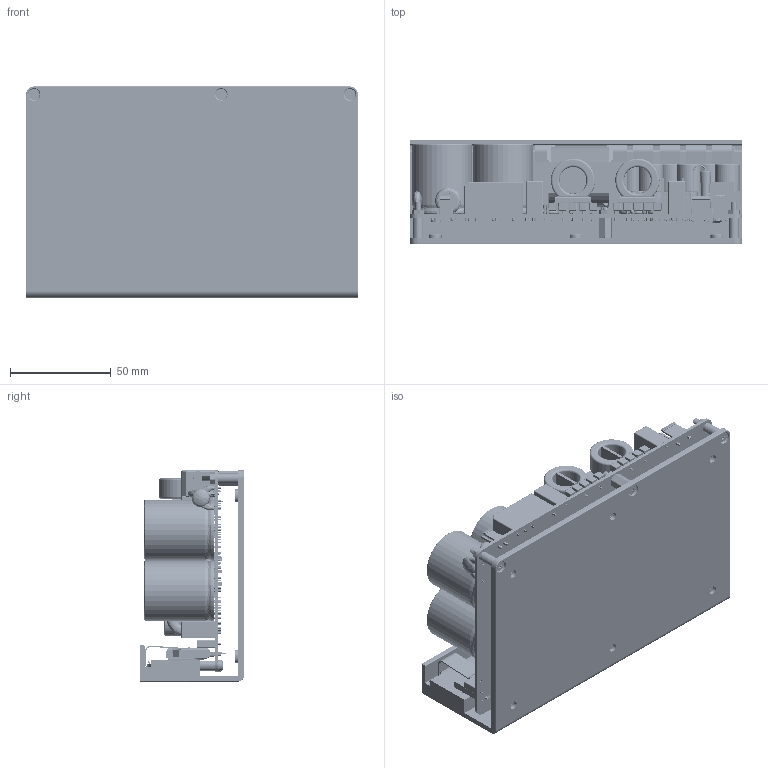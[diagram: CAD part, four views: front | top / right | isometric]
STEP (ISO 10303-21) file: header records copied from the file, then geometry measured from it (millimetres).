
FILE_DESCRIPTION (( 'STEP AP214' ), '1' );
FILE_NAME ('SMPS1200Axx0_10xx.STEP', '2020-09-07T13:52:55', ( '' ), ( '' ), 'SwSTEP 2.0', 'SolidWorks 2017', '' );
FILE_SCHEMA (( 'AUTOMOTIVE_DESIGN' ));
Length unit declared in the file: millimetre
Products named in the file (16): Bolt M3x20 Countersunk TX Zinc; Spacer 3x5x10mm Nylon; PCB SMPS1200 B08; Bolt M3x8 Countersunk TX Zinc; Hsink SBA16L10W5H3T2; Bolt M3x12 Panhead TX Zinc_MRT-TT-M3x12H-Steel-fzb; STEEL_PRESSNUT; Bolt M3x12 Panhead slotted Nylon; Hsink Spring Clip; Nut M3 Nylon; Hsink SAA16L3W0H8T3; Nut M3 DIN934; Spacer M3x10 Male-Female Nylon_D‚faut; SMPS1200Axx0_10xx; Spacer 3x5x7,5mm Nylon
Assembly tree (37 placements, depth 3):
  SMPS1200Axx0_10xx
    PCB SMPS1200 B08
    Hsink SAA16L3W0H8T3
    Spacer 3x5x10mm Nylon  x2
    Spacer M3x10 Male-Female Nylon_D‚faut
    Spacer 3x5x7,5mm Nylon  x2
    Nut M3 Nylon
    Nut M3 DIN934  x2
    Bolt M3x12 Panhead slotted Nylon
    Bolt M3x12 Panhead TX Zinc_MRT-TT-M3x12H-Steel-fzb
    Bolt M3x20 Countersunk TX Zinc  x2
    Bolt M3x8 Countersunk TX Zinc  x7
    Hsink Spring Clip  x8
    Hsink SBA16L10W5H3T2
      Hsink SBA16L10W5H3T2
      STEEL_PRESSNUT  x6
Bounding box: 165 x 52 x 105 mm (x, y, z)
Volume: 119078.8 mm3; surface area: 182275 mm2
Topology: 35 solids, 301 shells, 5241 faces, 14257 edges, 8944 vertices
Faces by surface type: cylinder 1872, plane 1492, cone 930, bspline 768, torus 156, sphere 23
Entity records: 167590 total; most frequent: CARTESIAN_POINT 36844, DIRECTION 21625, ORIENTED_EDGE 18560, EDGE_CURVE 10804, AXIS2_PLACEMENT_3D 7924, VERTEX_POINT 7112, VECTOR 5777, LINE 5777
